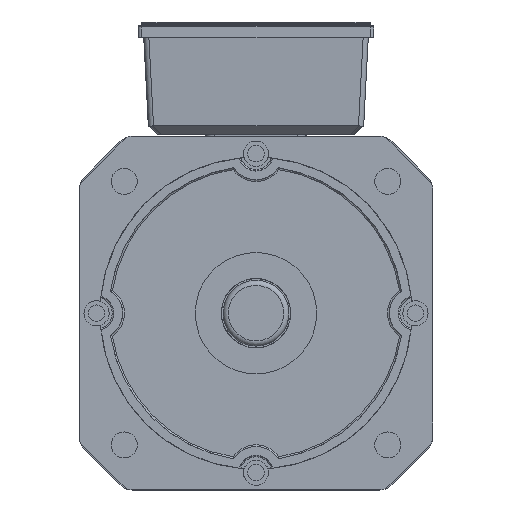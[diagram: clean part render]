
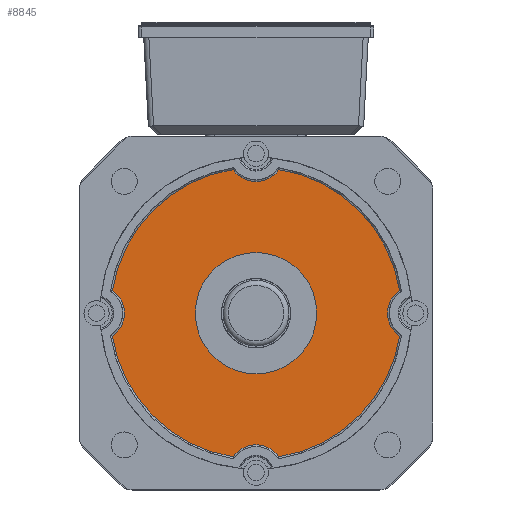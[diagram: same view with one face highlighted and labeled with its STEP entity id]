
A CAD part, front view. The second image highlights one B-rep face of the part: STEP entity #8845.
In plain terms, the highlighted planar face has unit normal (0, -1, 0).
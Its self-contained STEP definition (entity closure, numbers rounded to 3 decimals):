
#7102=PLANE('',#32596);
#8845=ADVANCED_FACE('',(#10141,#10142),#7102,.T.);
#10141=FACE_BOUND('',#12118,.T.);
#10142=FACE_BOUND('',#12119,.T.);
#12118=EDGE_LOOP('',(#20469,#20470,#20471,#20472,#20473,#20474,#20475,#20476));
#12119=EDGE_LOOP('',(#20477));
#20469=ORIENTED_EDGE('',*,*,#27627,.T.);
#20470=ORIENTED_EDGE('',*,*,#27978,.T.);
#20471=ORIENTED_EDGE('',*,*,#27979,.T.);
#20472=ORIENTED_EDGE('',*,*,#27980,.T.);
#20473=ORIENTED_EDGE('',*,*,#27981,.T.);
#20474=ORIENTED_EDGE('',*,*,#27982,.T.);
#20475=ORIENTED_EDGE('',*,*,#27635,.T.);
#20476=ORIENTED_EDGE('',*,*,#27736,.T.);
#20477=ORIENTED_EDGE('',*,*,#27983,.T.);
#23465=VERTEX_POINT('',#59072);
#23466=VERTEX_POINT('',#59074);
#23472=VERTEX_POINT('',#59109);
#23473=VERTEX_POINT('',#59111);
#23686=VERTEX_POINT('',#60664);
#23687=VERTEX_POINT('',#60666);
#23688=VERTEX_POINT('',#60668);
#23689=VERTEX_POINT('',#60670);
#23690=VERTEX_POINT('',#60673);
#27627=EDGE_CURVE('',#23466,#23465,#29496,.T.);
#27635=EDGE_CURVE('',#23473,#23472,#29500,.T.);
#27736=EDGE_CURVE('',#23472,#23466,#29520,.T.);
#27978=EDGE_CURVE('',#23465,#23686,#29605,.T.);
#27979=EDGE_CURVE('',#23686,#23687,#29606,.T.);
#27980=EDGE_CURVE('',#23687,#23688,#29607,.T.);
#27981=EDGE_CURVE('',#23688,#23689,#29608,.T.);
#27982=EDGE_CURVE('',#23689,#23473,#29609,.T.);
#27983=EDGE_CURVE('',#23690,#23690,#29610,.T.);
#29496=CIRCLE('',#32349,83.93);
#29500=CIRCLE('',#32355,83.93);
#29520=CIRCLE('',#32409,16.07);
#29605=CIRCLE('',#32590,16.07);
#29606=CIRCLE('',#32591,83.93);
#29607=CIRCLE('',#32592,16.07);
#29608=CIRCLE('',#32593,83.93);
#29609=CIRCLE('',#32594,16.07);
#29610=CIRCLE('',#32595,35.);
#32349=AXIS2_PLACEMENT_3D('',#59073,#39108,#39109);
#32355=AXIS2_PLACEMENT_3D('',#59110,#39120,#39121);
#32409=AXIS2_PLACEMENT_3D('',#59509,#39260,#39261);
#32590=AXIS2_PLACEMENT_3D('',#60663,#39688,#39689);
#32591=AXIS2_PLACEMENT_3D('',#60665,#39690,#39691);
#32592=AXIS2_PLACEMENT_3D('',#60667,#39692,#39693);
#32593=AXIS2_PLACEMENT_3D('',#60669,#39694,#39695);
#32594=AXIS2_PLACEMENT_3D('',#60671,#39696,#39697);
#32595=AXIS2_PLACEMENT_3D('',#60672,#39698,#39699);
#32596=AXIS2_PLACEMENT_3D('',#60674,#39700,#39701);
#39108=DIRECTION('',(0.,-1.,0.));
#39109=DIRECTION('',(0.,0.,-1.));
#39120=DIRECTION('',(0.,-1.,0.));
#39121=DIRECTION('',(0.,0.,-1.));
#39260=DIRECTION('',(0.,1.,0.));
#39261=DIRECTION('',(0.,0.,-1.));
#39688=DIRECTION('',(0.,1.,0.));
#39689=DIRECTION('',(0.,0.,1.));
#39690=DIRECTION('',(0.,-1.,0.));
#39691=DIRECTION('',(0.,0.,1.));
#39692=DIRECTION('',(0.,1.,0.));
#39693=DIRECTION('',(0.,0.,1.));
#39694=DIRECTION('',(0.,-1.,0.));
#39695=DIRECTION('',(0.,0.,1.));
#39696=DIRECTION('',(0.,1.,0.));
#39697=DIRECTION('',(0.,0.,1.));
#39698=DIRECTION('',(0.,1.,0.));
#39699=DIRECTION('',(0.,0.,1.));
#39700=DIRECTION('',(0.,-1.,0.));
#39701=DIRECTION('',(1.,0.,0.));
#59072=CARTESIAN_POINT('',(253.31,226.506,94.746));
#59073=CARTESIAN_POINT('',(170.43,226.506,107.978));
#59074=CARTESIAN_POINT('',(183.662,226.506,25.098));
#59109=CARTESIAN_POINT('',(157.198,226.506,25.098));
#59110=CARTESIAN_POINT('',(170.43,226.506,107.978));
#59111=CARTESIAN_POINT('',(87.55,226.506,94.746));
#59509=CARTESIAN_POINT('',(170.43,226.506,15.978));
#60663=CARTESIAN_POINT('',(262.43,226.506,107.978));
#60664=CARTESIAN_POINT('',(253.31,226.506,121.21));
#60665=CARTESIAN_POINT('',(170.43,226.506,107.978));
#60666=CARTESIAN_POINT('',(183.662,226.506,190.858));
#60667=CARTESIAN_POINT('',(170.43,226.506,199.978));
#60668=CARTESIAN_POINT('',(157.198,226.506,190.858));
#60669=CARTESIAN_POINT('',(170.43,226.506,107.978));
#60670=CARTESIAN_POINT('',(87.55,226.506,121.21));
#60671=CARTESIAN_POINT('',(78.43,226.506,107.978));
#60672=CARTESIAN_POINT('',(170.43,226.506,107.978));
#60673=CARTESIAN_POINT('',(170.43,226.506,142.978));
#60674=CARTESIAN_POINT('',(170.43,226.506,107.978));
